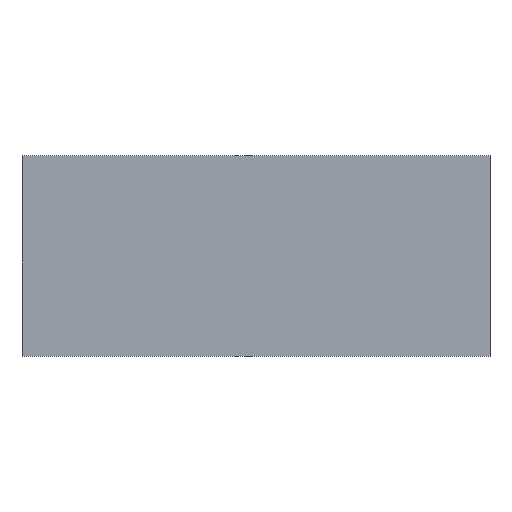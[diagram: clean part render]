
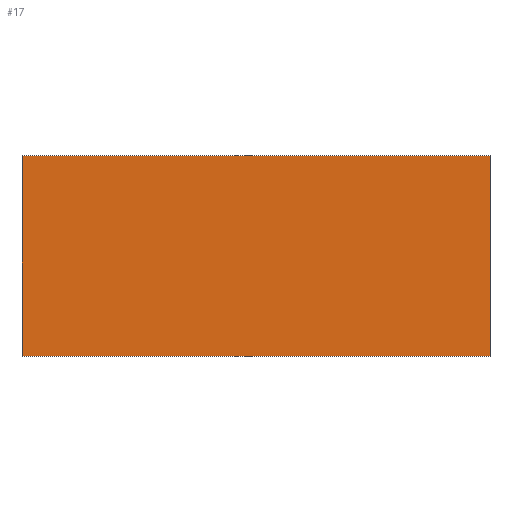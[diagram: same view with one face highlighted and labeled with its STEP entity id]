
A CAD part, top view. The second image highlights one B-rep face of the part: STEP entity #17.
In plain terms, the highlighted planar face has unit normal (0, 0, 1).
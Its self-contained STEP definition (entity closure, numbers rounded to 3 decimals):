
#3 = CARTESIAN_POINT ( 'NONE',  ( 0., 0., 15. ) ) ;
#7 = EDGE_CURVE ( 'NONE', #31, #106, #25, .T. ) ;
#8 = CARTESIAN_POINT ( 'NONE',  ( 350., 0., 15. ) ) ;
#9 = DIRECTION ( 'NONE',  ( 1., 0., 0. ) ) ;
#17 = ADVANCED_FACE ( 'NONE', ( #189 ), #173, .F. ) ;
#18 = VECTOR ( 'NONE', #109, 1000. ) ;
#25 = LINE ( 'NONE', #46, #45 ) ;
#27 = ORIENTED_EDGE ( 'NONE', *, *, #53, .T. ) ;
#29 = VECTOR ( 'NONE', #9, 1000. ) ;
#31 = VERTEX_POINT ( 'NONE', #145 ) ;
#32 = EDGE_CURVE ( 'NONE', #99, #31, #110, .T. ) ;
#36 = LINE ( 'NONE', #193, #18 ) ;
#45 = VECTOR ( 'NONE', #143, 1000. ) ;
#46 = CARTESIAN_POINT ( 'NONE',  ( 0., 150., 15. ) ) ;
#53 = EDGE_CURVE ( 'NONE', #106, #77, #36, .T. ) ;
#57 = AXIS2_PLACEMENT_3D ( 'NONE', #3, #74, #176 ) ;
#73 = EDGE_LOOP ( 'NONE', ( #27, #88, #202, #104 ) ) ;
#74 = DIRECTION ( 'NONE',  ( 0., 0., -1. ) ) ;
#77 = VERTEX_POINT ( 'NONE', #111 ) ;
#86 = LINE ( 'NONE', #133, #29 ) ;
#88 = ORIENTED_EDGE ( 'NONE', *, *, #132, .T. ) ;
#99 = VERTEX_POINT ( 'NONE', #8 ) ;
#101 = VECTOR ( 'NONE', #160, 1000. ) ;
#104 = ORIENTED_EDGE ( 'NONE', *, *, #7, .T. ) ;
#106 = VERTEX_POINT ( 'NONE', #148 ) ;
#109 = DIRECTION ( 'NONE',  ( 0., -1., 0. ) ) ;
#110 = LINE ( 'NONE', #146, #101 ) ;
#111 = CARTESIAN_POINT ( 'NONE',  ( 0., 0., 15. ) ) ;
#132 = EDGE_CURVE ( 'NONE', #77, #99, #86, .T. ) ;
#133 = CARTESIAN_POINT ( 'NONE',  ( 0., 0., 15. ) ) ;
#143 = DIRECTION ( 'NONE',  ( -1., 0., 0. ) ) ;
#145 = CARTESIAN_POINT ( 'NONE',  ( 350., 150., 15. ) ) ;
#146 = CARTESIAN_POINT ( 'NONE',  ( 350., 0., 15. ) ) ;
#148 = CARTESIAN_POINT ( 'NONE',  ( 0., 150., 15. ) ) ;
#160 = DIRECTION ( 'NONE',  ( 0., 1., 0. ) ) ;
#173 = PLANE ( 'NONE',  #57 ) ;
#176 = DIRECTION ( 'NONE',  ( -1., 0., 0. ) ) ;
#189 = FACE_OUTER_BOUND ( 'NONE', #73, .T. ) ;
#193 = CARTESIAN_POINT ( 'NONE',  ( 0., 0., 15. ) ) ;
#202 = ORIENTED_EDGE ( 'NONE', *, *, #32, .T. ) ;
